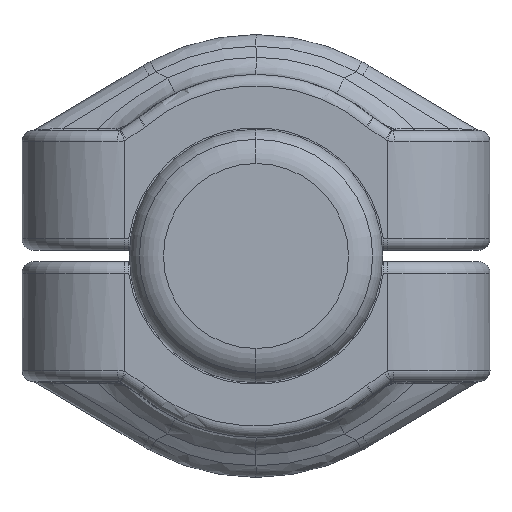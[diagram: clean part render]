
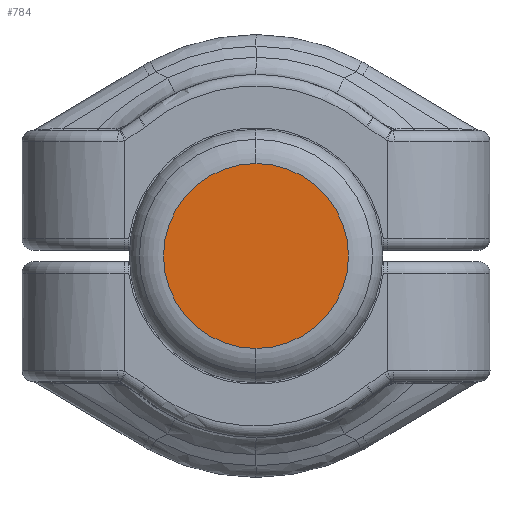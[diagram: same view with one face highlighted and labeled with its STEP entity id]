
A CAD part, left-side view. The second image highlights one B-rep face of the part: STEP entity #784.
In plain terms, the highlighted planar face has unit normal (-1, 0, 0).
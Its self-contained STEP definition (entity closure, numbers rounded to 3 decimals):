
#327=CARTESIAN_POINT('',(-40.,0.,0.));
#328=DIRECTION('',(1.,0.,0.));
#329=DIRECTION('',(0.,0.,-1.));
#330=AXIS2_PLACEMENT_3D('',#327,#328,#329);
#335=CARTESIAN_POINT('',(-40.,0.,0.));
#336=DIRECTION('',(1.,0.,0.));
#337=DIRECTION('',(0.,0.,1.));
#338=AXIS2_PLACEMENT_3D('',#335,#336,#337);
#501=CARTESIAN_POINT('',(-40.,0.,8.1));
#502=CARTESIAN_POINT('',(-40.,0.,-8.1));
#503=VERTEX_POINT('',#501);
#504=VERTEX_POINT('',#502);
#774=CARTESIAN_POINT('',(-40.,8.1,0.));
#775=DIRECTION('',(1.,0.,0.));
#776=DIRECTION('',(0.,0.,-1.));
#777=AXIS2_PLACEMENT_3D('',#774,#775,#776);
#778=PLANE('',#777);
#780=ORIENTED_EDGE('',*,*,#779,.T.);
#781=ORIENTED_EDGE('',*,*,#764,.T.);
#782=EDGE_LOOP('',(#780,#781));
#783=FACE_OUTER_BOUND('',#782,.F.);
#331=CIRCLE('',#330,8.1);
#339=CIRCLE('',#338,8.1);
#764=EDGE_CURVE('',#503,#504,#339,.T.);
#779=EDGE_CURVE('',#504,#503,#331,.T.);
#784=ADVANCED_FACE('',(#783),#778,.F.);
